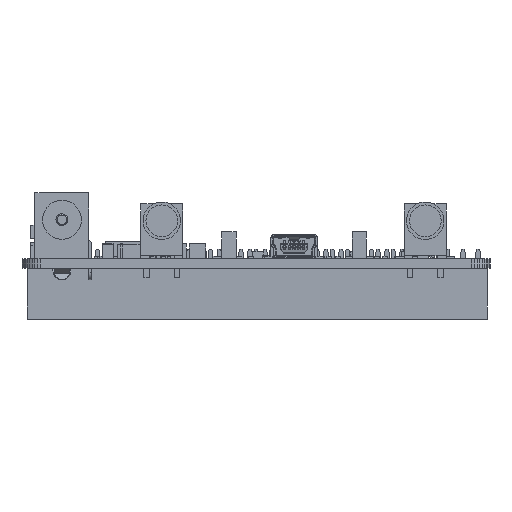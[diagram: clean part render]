
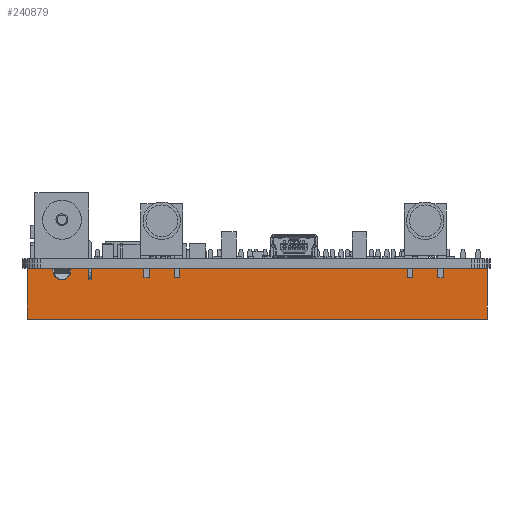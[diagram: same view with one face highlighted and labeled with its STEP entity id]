
A CAD part, left-side view. The second image highlights one B-rep face of the part: STEP entity #240879.
In plain terms, the highlighted planar face has unit normal (-1, 0, 0) as drawn and (0, 0, 1) by its records, which use the part's own axes.
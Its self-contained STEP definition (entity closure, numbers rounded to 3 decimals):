
#227491 = PLANE('',#227492);
#227492 = AXIS2_PLACEMENT_3D('',#227493,#227494,#227495);
#227493 = CARTESIAN_POINT('',(51.3,8.5,0.));
#227494 = DIRECTION('',(0.,-1.,0.));
#227495 = DIRECTION('',(0.,0.,-1.));
#239219 = VERTEX_POINT('',#239220);
#239220 = CARTESIAN_POINT('',(0.,0.,
    0.));
#239227 = PLANE('',#239228);
#239228 = AXIS2_PLACEMENT_3D('',#239229,#239230,#239231);
#239229 = CARTESIAN_POINT('',(0.,0.5,-1.07));
#239230 = DIRECTION('',(1.,0.,0.));
#239231 = DIRECTION('',(0.,0.,-1.));
#239239 = PLANE('',#239240);
#239240 = AXIS2_PLACEMENT_3D('',#239241,#239242,#239243);
#239241 = CARTESIAN_POINT('',(-12.7,0.,-0.54));
#239242 = DIRECTION('',(0.,1.,0.));
#239243 = DIRECTION('',(0.,0.,1.));
#239251 = EDGE_CURVE('',#239252,#239219,#239254,.T.);
#239252 = VERTEX_POINT('',#239253);
#239253 = CARTESIAN_POINT('',(0.,8.5,
    0.));
#239254 = SURFACE_CURVE('',#239255,(#239259,#239266),.PCURVE_S1.);
#239255 = LINE('',#239256,#239257);
#239256 = CARTESIAN_POINT('',(0.,0.5,0.));
#239257 = VECTOR('',#239258,1.);
#239258 = DIRECTION('',(0.,-1.,0.));
#239259 = PCURVE('',#239227,#239260);
#239260 = DEFINITIONAL_REPRESENTATION('',(#239261),#239265);
#239261 = LINE('',#239262,#239263);
#239262 = CARTESIAN_POINT('',(-1.07,0.));
#239263 = VECTOR('',#239264,1.);
#239264 = DIRECTION('',(0.,-1.));
#239265 = ( GEOMETRIC_REPRESENTATION_CONTEXT(2) 
PARAMETRIC_REPRESENTATION_CONTEXT() REPRESENTATION_CONTEXT('2D SPACE',''
  ) );
#239266 = PCURVE('',#239267,#239272);
#239267 = PLANE('',#239268);
#239268 = AXIS2_PLACEMENT_3D('',#239269,#239270,#239271);
#239269 = CARTESIAN_POINT('',(-12.7,0.,0.));
#239270 = DIRECTION('',(0.,0.,1.));
#239271 = DIRECTION('',(1.,0.,0.));
#239272 = DEFINITIONAL_REPRESENTATION('',(#239273),#239277);
#239273 = LINE('',#239274,#239275);
#239274 = CARTESIAN_POINT('',(12.7,0.5));
#239275 = VECTOR('',#239276,1.);
#239276 = DIRECTION('',(0.,-1.));
#239277 = ( GEOMETRIC_REPRESENTATION_CONTEXT(2) 
PARAMETRIC_REPRESENTATION_CONTEXT() REPRESENTATION_CONTEXT('2D SPACE',''
  ) );
#240009 = PLANE('',#240010);
#240010 = AXIS2_PLACEMENT_3D('',#240011,#240012,#240013);
#240011 = CARTESIAN_POINT('',(76.7,0.5,-4.01));
#240012 = DIRECTION('',(-1.,0.,0.));
#240013 = DIRECTION('',(0.,0.,1.));
#240785 = EDGE_CURVE('',#240786,#239252,#240788,.T.);
#240786 = VERTEX_POINT('',#240787);
#240787 = CARTESIAN_POINT('',(76.7,8.5,0.));
#240788 = SURFACE_CURVE('',#240789,(#240793,#240800),.PCURVE_S1.);
#240789 = LINE('',#240790,#240791);
#240790 = CARTESIAN_POINT('',(-12.7,8.5,0.));
#240791 = VECTOR('',#240792,1.);
#240792 = DIRECTION('',(-1.,0.,0.));
#240793 = PCURVE('',#227491,#240794);
#240794 = DEFINITIONAL_REPRESENTATION('',(#240795),#240799);
#240795 = LINE('',#240796,#240797);
#240796 = CARTESIAN_POINT('',(0.,-64.));
#240797 = VECTOR('',#240798,1.);
#240798 = DIRECTION('',(0.,-1.));
#240799 = ( GEOMETRIC_REPRESENTATION_CONTEXT(2) 
PARAMETRIC_REPRESENTATION_CONTEXT() REPRESENTATION_CONTEXT('2D SPACE',''
  ) );
#240800 = PCURVE('',#239267,#240801);
#240801 = DEFINITIONAL_REPRESENTATION('',(#240802),#240806);
#240802 = LINE('',#240803,#240804);
#240803 = CARTESIAN_POINT('',(0.,8.5));
#240804 = VECTOR('',#240805,1.);
#240805 = DIRECTION('',(-1.,0.));
#240806 = ( GEOMETRIC_REPRESENTATION_CONTEXT(2) 
PARAMETRIC_REPRESENTATION_CONTEXT() REPRESENTATION_CONTEXT('2D SPACE',''
  ) );
#240879 = ADVANCED_FACE('',(#240880),#239267,.T.);
#240880 = FACE_BOUND('',#240881,.T.);
#240881 = EDGE_LOOP('',(#240882,#240905,#240906,#240907));
#240882 = ORIENTED_EDGE('',*,*,#240883,.F.);
#240883 = EDGE_CURVE('',#240786,#240884,#240886,.T.);
#240884 = VERTEX_POINT('',#240885);
#240885 = CARTESIAN_POINT('',(76.7,0.,0.));
#240886 = SURFACE_CURVE('',#240887,(#240891,#240898),.PCURVE_S1.);
#240887 = LINE('',#240888,#240889);
#240888 = CARTESIAN_POINT('',(76.7,0.,0.));
#240889 = VECTOR('',#240890,1.);
#240890 = DIRECTION('',(0.,-1.,0.));
#240891 = PCURVE('',#239267,#240892);
#240892 = DEFINITIONAL_REPRESENTATION('',(#240893),#240897);
#240893 = LINE('',#240894,#240895);
#240894 = CARTESIAN_POINT('',(89.4,0.));
#240895 = VECTOR('',#240896,1.);
#240896 = DIRECTION('',(0.,-1.));
#240897 = ( GEOMETRIC_REPRESENTATION_CONTEXT(2) 
PARAMETRIC_REPRESENTATION_CONTEXT() REPRESENTATION_CONTEXT('2D SPACE',''
  ) );
#240898 = PCURVE('',#240009,#240899);
#240899 = DEFINITIONAL_REPRESENTATION('',(#240900),#240904);
#240900 = LINE('',#240901,#240902);
#240901 = CARTESIAN_POINT('',(4.01,-0.5));
#240902 = VECTOR('',#240903,1.);
#240903 = DIRECTION('',(0.,-1.));
#240904 = ( GEOMETRIC_REPRESENTATION_CONTEXT(2) 
PARAMETRIC_REPRESENTATION_CONTEXT() REPRESENTATION_CONTEXT('2D SPACE',''
  ) );
#240905 = ORIENTED_EDGE('',*,*,#240785,.T.);
#240906 = ORIENTED_EDGE('',*,*,#239251,.T.);
#240907 = ORIENTED_EDGE('',*,*,#240908,.T.);
#240908 = EDGE_CURVE('',#239219,#240884,#240909,.T.);
#240909 = SURFACE_CURVE('',#240910,(#240914,#240921),.PCURVE_S1.);
#240910 = LINE('',#240911,#240912);
#240911 = CARTESIAN_POINT('',(-12.7,0.,0.));
#240912 = VECTOR('',#240913,1.);
#240913 = DIRECTION('',(1.,0.,0.));
#240914 = PCURVE('',#239267,#240915);
#240915 = DEFINITIONAL_REPRESENTATION('',(#240916),#240920);
#240916 = LINE('',#240917,#240918);
#240917 = CARTESIAN_POINT('',(0.,0.));
#240918 = VECTOR('',#240919,1.);
#240919 = DIRECTION('',(1.,0.));
#240920 = ( GEOMETRIC_REPRESENTATION_CONTEXT(2) 
PARAMETRIC_REPRESENTATION_CONTEXT() REPRESENTATION_CONTEXT('2D SPACE',''
  ) );
#240921 = PCURVE('',#239239,#240922);
#240922 = DEFINITIONAL_REPRESENTATION('',(#240923),#240927);
#240923 = LINE('',#240924,#240925);
#240924 = CARTESIAN_POINT('',(0.54,0.));
#240925 = VECTOR('',#240926,1.);
#240926 = DIRECTION('',(0.,1.));
#240927 = ( GEOMETRIC_REPRESENTATION_CONTEXT(2) 
PARAMETRIC_REPRESENTATION_CONTEXT() REPRESENTATION_CONTEXT('2D SPACE',''
  ) );
